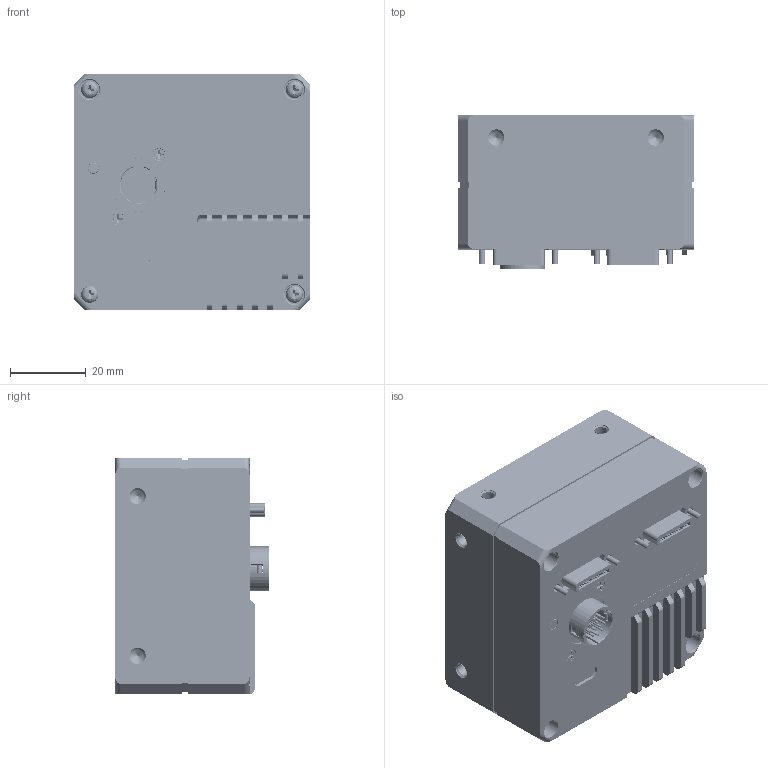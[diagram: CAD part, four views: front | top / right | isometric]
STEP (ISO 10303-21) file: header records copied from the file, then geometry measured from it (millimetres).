
FILE_DESCRIPTION((''),'2;1');
FILE_NAME('_0002_ASM','2021-03-02T20:45:13',('mafangning'),(''),'CREO PARAMETRIC BY PTC INC, 2020044','CREO PARAMETRIC BY PTC INC, 2020044','');
FILE_SCHEMA(('CONFIG_CONTROL_DESIGN'));
Products named in the file (31): 4K__00; SENSOR-1__; SENSOR__0001; SENSOR_PCB__; 101302106__RNM_; SENSOR__000; 193100523_SC-T1M2X4NL-B__; SENSOR___ASM; ZHUBAN_PCB___RNM_; FPGA___RNM_; 101302216___RNM_; LED4-BLHGEUB36L___RNM_; PCB-MV-20174REV1-0__ASM; ST-S4X4_1-M2X4-F2X3_5-CU__; __000; 101303143__; HR10A-10R-12PB__; 101303137__; PCB-MV-22081REV1-0__ASM; DE-14-000482__; DE-14-010165_; D-01-35-26-0869_; DE-11-005361_; DE-19-000302_; _0001_ASM; SC-KM2X4B_; SC-PSF0M2X7B-JMP_; D-01-37-26-0296-X7_; 193100311_SC-PM2_5X12L4_; DA-13-005033_; _0002_ASM
Assembly tree (52 placements, depth 3):
  _0002_ASM
    4K__00
    SENSOR___ASM
      SENSOR-1__
      SENSOR__0001
      SENSOR_PCB__
      101302106__RNM_
      SENSOR__000
      193100523_SC-T1M2X4NL-B__  x3
    PCB-MV-20174REV1-0__ASM
      ZHUBAN_PCB___RNM_
      FPGA___RNM_
      101302216___RNM_
      LED4-BLHGEUB36L___RNM_
      101302106__RNM_
    ST-S4X4_1-M2X4-F2X3_5-CU__  x4
    PCB-MV-22081REV1-0__ASM
      __000
      101303143__  x2
      HR10A-10R-12PB__
      101303137__
      101302216___RNM_
    193100523_SC-T1M2X4NL-B__  x7
    DE-14-000482__
    DE-14-010165_
    D-01-35-26-0869_
    _0001_ASM
      DE-11-005361_
      DE-19-000302_
    SC-KM2X4B_  x2
    SC-PSF0M2X7B-JMP_  x4
    D-01-37-26-0296-X7_
    193100311_SC-PM2_5X12L4_  x4
    DA-13-005033_
Bounding box: 62 x 40.53 x 62 mm (x, y, z)
Volume: 84324.5 mm3; surface area: 77413.5 mm2
Topology: 48 solids, 115 shells, 26389 faces, 83132 edges, 55008 vertices
Faces by surface type: plane 21930, cylinder 4115, cone 194, bspline 78, torus 70, sphere 2
Entity records: 484776 total; most frequent: CARTESIAN_POINT 89179, ORIENTED_EDGE 87130, DIRECTION 76896, EDGE_CURVE 43651, VECTOR 37940, LINE 37940, VERTEX_POINT 28923, AXIS2_PLACEMENT_3D 19478
